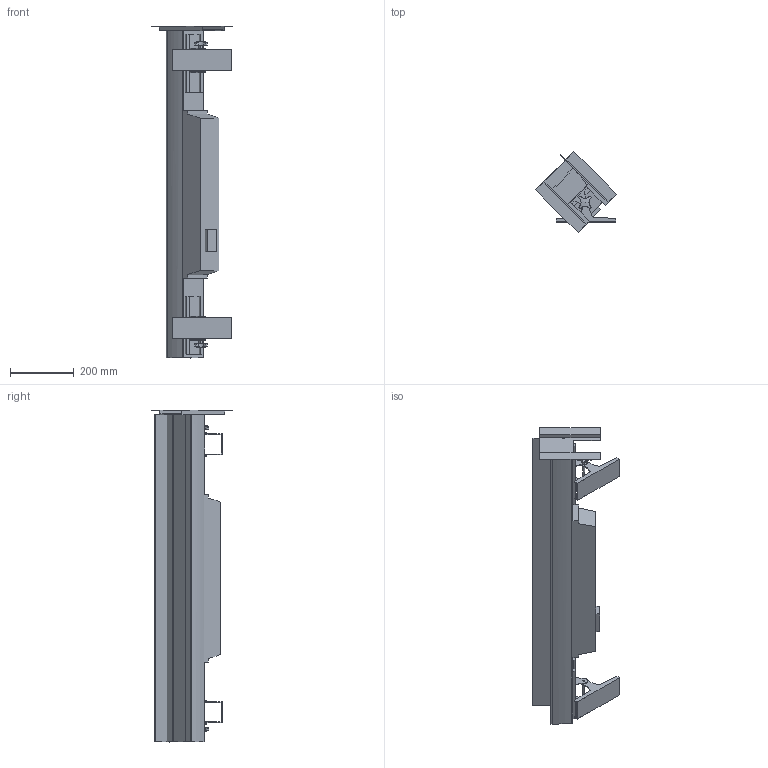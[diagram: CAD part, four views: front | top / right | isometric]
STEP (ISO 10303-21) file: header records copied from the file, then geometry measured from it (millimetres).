
FILE_DESCRIPTION(/* description */ (''),/* implementation_level */ '2;1');
FILE_NAME(/* name */ 'D:/dgooch/Documents/CADENG/PRO/Colorado Batten Q15/45/COLORado Batten Q15_45.step',/* time_stamp */ '2020-01-17T11:15:15-05:00',/* author */ (''),/* organization */ (''),/* preprocessor_version */ 'ST-DEVELOPER v18',/* originating_system */ 'Autodesk Translation Framework v8.12.0.6',/* authorisation */ '');
FILE_SCHEMA (('AUTOMOTIVE_DESIGN { 1 0 10303 214 3 1 1 }'));
Length unit declared in the file: millimetre
Products named in the file (14): COLORadoBattenQ15-V2; Bracket; ZHIJIADANBAN (1); ZHIJIA02_ASM (1); LED317-25 (1); LED317-26 (1); SS361SHOUNIELUOSI (1); Bracket(Mirror); ZHIJIADANBAN (1) (1); ZHIJIA02_ASM (1) (1); LED317-25 (1) (1); LED317-26 (1) (1); SS361SHOUNIELUOSI (1) (1); Main
Assembly tree (13 placements, depth 5):
  COLORadoBattenQ15-V2
    Bracket
      ZHIJIADANBAN (1)
      ZHIJIA02_ASM (1)
        LED317-25 (1)
        LED317-26 (1)
        SS361SHOUNIELUOSI (1)
      Bracket(Mirror)
        ZHIJIADANBAN (1) (1)
        ZHIJIA02_ASM (1) (1)
          LED317-25 (1) (1)
          LED317-26 (1) (1)
          SS361SHOUNIELUOSI (1) (1)
    Main
Bounding box: 253.68 x 253.68 x 1039.7 mm (x, y, z)
Volume: 10143722.8 mm3; surface area: 733276.4 mm2
Topology: 3 solids, 3 shells, 221 faces, 616 edges, 410 vertices
Faces by surface type: plane 186, cylinder 33, sphere 2
Full cylindrical faces by diameter (mm): 6 x6
Entity records: 7514 total; most frequent: CARTESIAN_POINT 1392, ORIENTED_EDGE 1228, DIRECTION 1181, EDGE_CURVE 614, LINE 527, VECTOR 527, VERTEX_POINT 410, AXIS2_PLACEMENT_3D 327
